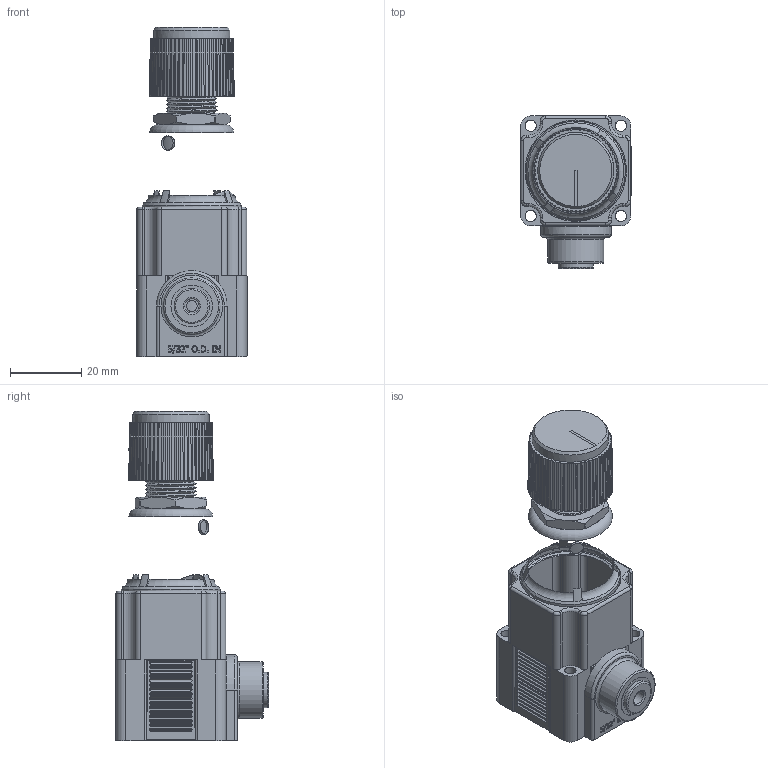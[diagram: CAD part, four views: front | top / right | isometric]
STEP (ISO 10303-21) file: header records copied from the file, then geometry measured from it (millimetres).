
FILE_DESCRIPTION(/* description */ (''),/* implementation_level */ '2;1');
FILE_NAME(/* name */ 'K:\Normteile INVENTOR\Air-Logic\Regulators\NR4000\NR 4___ 3 Push-In Fitting for 5''32 O.D. Tube In.igs.ipt.stp',/* time_stamp */ '2020-05-27T10:50:44+02:00',/* author */ ('Paul'),/* organization */ (''),/* preprocessor_version */ 'ST-DEVELOPER v18',/* originating_system */ 'Autodesk Inventor 2020',/* authorisation */ '');
FILE_SCHEMA (('AUTOMOTIVE_DESIGN { 1 0 10303 214 3 1 1 }'));
Length unit declared in the file: inch
Products named in the file (1): NR 4___ 3 Push-In Fitting for 5'32 O.D. Tube In.igs
Bounding box: 31.06 x 43.08 x 92.65 mm (x, y, z)
Volume: 57554.7 mm3; surface area: 19189.4 mm2
Topology: 1 solids, 1 shells, 1054 faces, 2724 edges, 1748 vertices
Faces by surface type: plane 525, cylinder 333, bspline 88, cone 82, torus 26
Full cylindrical faces by diameter (mm): 3.073 x1, 3.175 x4, 3.988 x1, 4.039 x1, 4.064 x1, 4.089 x1, 6.045 x1, 9.169 x1, 9.398 x1, 9.906 x1, 11.735 x1, 12.903 x1, 14.288 x2, 15.85 x1, 19.406 x1, 21.476 x1, 26.264 x1, 27.94 x1, 28.575 x1
Entity records: 41442 total; most frequent: CARTESIAN_POINT 14461, ORIENTED_EDGE 5448, DIRECTION 5404, EDGE_CURVE 2724, AXIS2_PLACEMENT_3D 2008, VERTEX_POINT 1748, LINE 1388, VECTOR 1388
